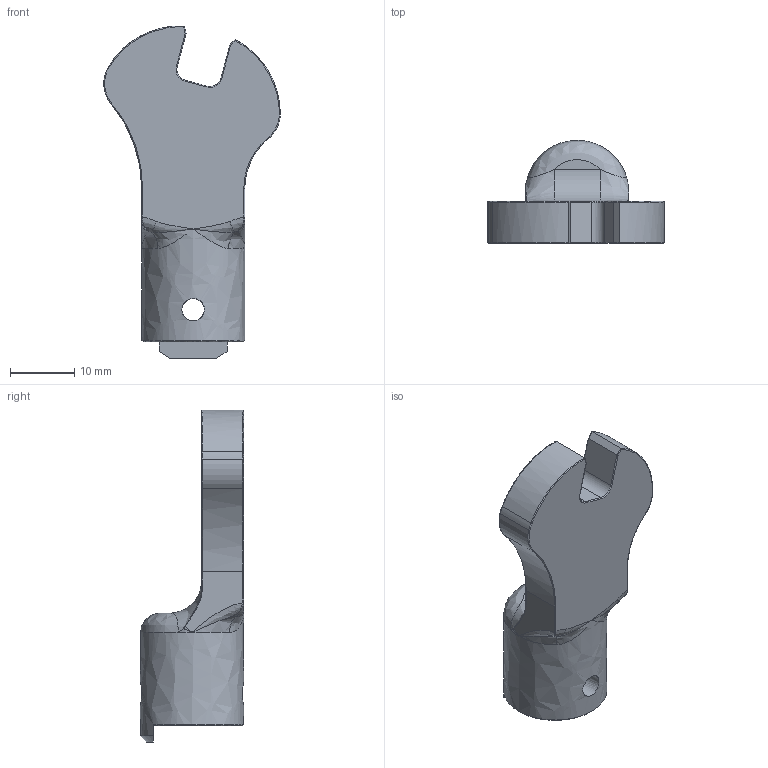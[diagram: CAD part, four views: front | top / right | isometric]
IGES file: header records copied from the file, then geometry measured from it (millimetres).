
Global section: file name: SH10DX7; native system: Autodesk Inventor 2016; preprocessor: unknown; author: Q600; date: 20151029.185823; units: millimetre
Bounding box: 27.38 x 16 x 51.52 mm (x, y, z)
Volume: 6202.3 mm3; surface area: 3578.3 mm2
Topology: 1 solids, 1 shells, 90 faces, 227 edges, 130 vertices
Faces by surface type: bspline 90
